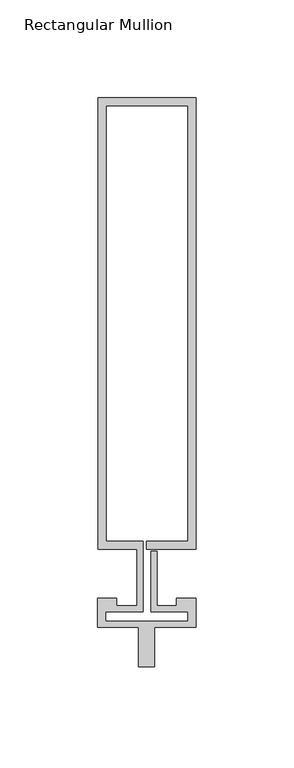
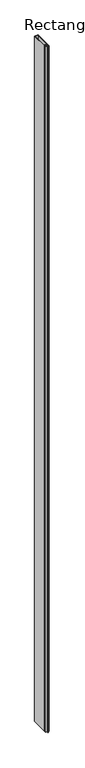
"""IFC4 building model written with IfcOpenShell, lengths in millimetres: member geometry, Rectangular Mullion : Reynaers_CW-50_Mullion-Transom_Vertical_230.5mm_Facecap-06A."""

import ifcopenshell
import ifcopenshell.guid

model = None  # the IFC model being written
_history = None  # IfcOwnerHistory: only IFC2X3 demands one
_inside = {}  # id of a spatial element -> (the spatial element, [elements in it])
_under = {}  # id of a project, library or spatial element -> (it, [spatial elements below it])
_declared = {}  # id of a project -> (the project, [libraries it declares])
_typed = {}  # id of a type object -> (the type object, [elements of that type])
_made_of = {}  # id of a material, layer set ... -> (it, [elements and type objects made of it])


def new_model(schema):
    """Start an empty IFC model of exactly this schema.

    Asked for "IFC4X3", IfcOpenShell would pick the latest addendum, in which some entities
    have other attributes; the version numbers below select the first issue.
    IFC2X3 requires an IfcOwnerHistory on every rooted entity: one is made here for all.
    """
    global model, _history
    if schema == "IFC4X3":
        model = ifcopenshell.file(schema_version=(4, 3, 0, 0))
    else:
        model = ifcopenshell.file(schema=schema)
    _inside.clear()
    _under.clear()
    _declared.clear()
    _typed.clear()
    _made_of.clear()
    _history = None
    if model.schema == "IFC2X3":
        org = make("IfcOrganization", Name="unknown")
        user = make(
            "IfcPersonAndOrganization",
            ThePerson=make("IfcPerson", FamilyName="unknown"),
            TheOrganization=org,
        )
        app = make(
            "IfcApplication",
            ApplicationDeveloper=org,
            Version="unknown",
            ApplicationFullName="unknown",
            ApplicationIdentifier="unknown",
        )
        _history = make(
            "IfcOwnerHistory",
            OwningUser=user,
            OwningApplication=app,
            ChangeAction="ADDED",
            CreationDate=0,
        )
    return model


def make(cls, **values):
    """One entity of the class cls with the attributes given. An attribute that is None is left unset."""
    return model.create_entity(
        cls, **{name: value for name, value in values.items() if value is not None}
    )


def rooted(cls, **values):
    """An entity with a GlobalId (a new one), such as an element, a storey or a relation."""
    return make(cls, GlobalId=ifcopenshell.guid.new(), OwnerHistory=_history, **values)


def si_unit(unit_type, name, prefix=None):
    """IfcSIUnit, for example si_unit("LENGTHUNIT", "METRE", prefix="MILLI")."""
    return make("IfcSIUnit", UnitType=unit_type, Prefix=prefix, Name=name)


def assignment(units):
    """IfcUnitAssignment: the units of a project."""
    return None if units is None else make("IfcUnitAssignment", Units=units)


def point(xyz):
    """IfcCartesianPoint."""
    return None if xyz is None else make("IfcCartesianPoint", Coordinates=xyz)


def direction(xyz):
    """IfcDirection."""
    return None if xyz is None else make("IfcDirection", DirectionRatios=xyz)


def frame(location, z_axis=None, x_axis=None):
    """IfcAxis2Placement3D, a coordinate frame: its origin and axes. An axis left out is left unset."""
    return make(
        "IfcAxis2Placement3D",
        Location=point(location),
        Axis=direction(z_axis),
        RefDirection=direction(x_axis),
    )


def origin():
    """The frame at (0, 0, 0) with its axes left unset."""
    return frame((0.0, 0.0, 0.0))


def place(relative_to, where):
    """IfcLocalPlacement: puts the frame where relative to a parent placement (None: the world)."""
    return make(
        "IfcLocalPlacement", PlacementRelTo=relative_to, RelativePlacement=where
    )


def context(
    kind, dimensions, precision=None, world=None, true_north=None, identifier=None
):
    """IfcGeometricRepresentationContext, for example the 3D "Model" context."""
    return make(
        "IfcGeometricRepresentationContext",
        ContextIdentifier=identifier,
        ContextType=kind,
        CoordinateSpaceDimension=dimensions,
        Precision=precision,
        WorldCoordinateSystem=world,
        TrueNorth=true_north,
    )


def project(units=None, contexts=None):
    """IfcProject with its units and contexts."""
    return rooted(
        "IfcProject",
        Name="project",
        RepresentationContexts=contexts,
        UnitsInContext=assignment(units),
    )


def spatial(cls, under=None, at=None, **own):
    """A site, building, storey or space (cls), placed at a placement, below another one or the project."""
    s = rooted(cls, ObjectPlacement=at, **own)
    if under is not None:
        _under.setdefault(under.id(), (under, []))[1].append(s)
    return s


def polyline(points):
    """IfcPolyline through the points."""
    return make("IfcPolyline", Points=[point(p) for p in points])


def outline(outer, holes=None, kind="AREA"):
    """IfcArbitraryClosedProfileDef: a profile drawn as a closed curve; with holes, ...WithVoids."""
    if holes is None:
        return make("IfcArbitraryClosedProfileDef", ProfileType=kind, OuterCurve=outer)
    return make(
        "IfcArbitraryProfileDefWithVoids",
        ProfileType=kind,
        OuterCurve=outer,
        InnerCurves=holes,
    )


def extrude(swept, where, along, depth):
    """IfcExtrudedAreaSolid: the profile swept, set in the frame where, extruded along a direction by depth."""
    return make(
        "IfcExtrudedAreaSolid",
        SweptArea=swept,
        Position=where,
        ExtrudedDirection=direction(along),
        Depth=depth,
    )


def shape(context_of_items, identifier, shape_type, items):
    """IfcShapeRepresentation: the items that make up one representation, for example the "Body"."""
    return make(
        "IfcShapeRepresentation",
        ContextOfItems=context_of_items,
        RepresentationIdentifier=identifier,
        RepresentationType=shape_type,
        Items=items,
    )


def source(mapping_origin, context_of_items, identifier, shape_type, items):
    """IfcRepresentationMap: a shape defined once, which mapped items show again and again."""
    return make(
        "IfcRepresentationMap",
        MappingOrigin=mapping_origin,
        MappedRepresentation=shape(context_of_items, identifier, shape_type, items),
    )


def transform(
    local_origin,
    x_axis=None,
    y_axis=None,
    z_axis=None,
    scale=None,
    scale2=None,
    scale3=None,
    uniform=True,
):
    """IfcCartesianTransformationOperator3D, or its non-uniform kind. x_axis, y_axis, z_axis: its Axis1, 2, 3."""
    if uniform:
        return make(
            "IfcCartesianTransformationOperator3D",
            Axis1=direction(x_axis),
            Axis2=direction(y_axis),
            LocalOrigin=point(local_origin),
            Scale=scale,
            Axis3=direction(z_axis),
        )
    return make(
        "IfcCartesianTransformationOperator3DnonUniform",
        Axis1=direction(x_axis),
        Axis2=direction(y_axis),
        LocalOrigin=point(local_origin),
        Scale=scale,
        Axis3=direction(z_axis),
        Scale2=scale2,
        Scale3=scale3,
    )


def mapped(mapping_source, mapping_target):
    """IfcMappedItem: shows the shape of a source again, moved by a transform."""
    return make(
        "IfcMappedItem", MappingSource=mapping_source, MappingTarget=mapping_target
    )


def made_of(thing, what):
    """Note that an element or type object is made of a material, layer set ...; save() writes the relation."""
    if what is not None:
        _made_of.setdefault(what.id(), (what, []))[1].append(thing)
    return thing


def element(
    cls,
    number,
    at=None,
    inside=None,
    cuts=None,
    type_object=None,
    material=None,
    context=None,
    identifier="Body",
    shape_type=None,
    held_by="IfcProductDefinitionShape",
    body=None,
    shapes=None,
    **own,
):
    """One element of the class cls, such as IfcWall. Its Tag is "e" and its number.

    at: its placement. inside: the storey or other place that contains it. cuts: it is an
    opening in that element (IfcRelVoidsElement). A single representation is given by context,
    identifier, shape_type and body (its items); several are given by shapes. held_by: the class
    of the entity that holds the representations. save() writes the other relations.
    """
    e = rooted(cls, Tag="e%d" % number, ObjectPlacement=at, **own)
    if body is not None:
        shapes = [shape(context, identifier, shape_type, body)]
    if shapes is not None:
        e.Representation = make(held_by, Representations=shapes)
    if inside is not None:
        _inside.setdefault(inside.id(), (inside, []))[1].append(e)
    if cuts is not None:
        rooted(
            "IfcRelVoidsElement", RelatingBuildingElement=cuts, RelatedOpeningElement=e
        )
    if type_object is not None:
        _typed.setdefault(type_object.id(), (type_object, []))[1].append(e)
    return made_of(e, material)


def aggregate(whole, parts):
    """IfcRelAggregates: a whole, such as a stair, and the parts it consists of."""
    return rooted("IfcRelAggregates", RelatingObject=whole, RelatedObjects=parts)


def save(model, path):
    """Write the relations noted so far, then the file.

    IfcRelAggregates (storeys below a building ...), IfcRelContainedInSpatialStructure (elements
    in a storey), IfcRelDefinesByType, IfcRelAssociatesMaterial and IfcRelDeclares: one each for
    every whole, place, type object, material and project.
    """
    for whole, parts in _under.values():
        aggregate(whole, parts)
    for where, things in _inside.values():
        rooted(
            "IfcRelContainedInSpatialStructure",
            RelatedElements=things,
            RelatingStructure=where,
        )
    for kind, things in _typed.values():
        rooted("IfcRelDefinesByType", RelatedObjects=things, RelatingType=kind)
    for what, things in _made_of.values():
        rooted("IfcRelAssociatesMaterial", RelatedObjects=things, RelatingMaterial=what)
    for by, libraries in _declared.values():
        rooted("IfcRelDeclares", RelatingContext=by, RelatedDefinitions=libraries)
    model.write(path)


def rectangular_mullion_57f380c9(model_context):
    return source(origin(), model_context, "Body", "SweptSolid", [
        extrude(outline(polyline([(-24.8004059, 243.0), (25.1995941, 243.0), (25.1995941, 12.5), (0.0, 12.5), (0.0, 16.5), (21.1995941, 16.5), (21.1995941, 239.0), (-20.8004059, 239.0), (-20.8004059, 16.5), (-1.9004059, 16.5), (-1.9004059, -19.5), (-20.994845, -19.5), (-20.994845, -24.4191338), (21.1995941, -24.4191338), (21.1995941, -19.5), (2.2995941, -19.5), (2.2995941, 11.5), (5.2995941, 11.5), (5.2995941, -16.5), (15.2996495, -16.5), (15.2996495, -12.5), (25.1995941, -12.5), (25.1995941, -27.5), (4.004855, -27.5), (4.004855, -47.5), (-3.995145, -47.5), (-3.995145, -27.5), (-24.994845, -27.5), (-24.994845, -12.5), (-15.2996495, -12.5), (-15.2996495, -16.5), (-4.9004059, -16.5), (-4.9004059, 12.5), (-24.8004059, 12.5), (-24.8004059, 243.0)])), frame((0.0, 0.0, -10400.0), z_axis=(0.0, 0.0, 1.0), x_axis=(1.0, 0.0, 0.0)), (0.0, 0.0, 1.0), 10400.0),
    ])


if __name__ == "__main__":
    model = new_model("IFC4")
    model_context = context("Model", 3, world=origin())
    ifc_project = project(units=[si_unit("LENGTHUNIT", "METRE", prefix="MILLI")], contexts=[model_context])
    site = spatial("IfcSite", under=ifc_project)
    building = spatial("IfcBuilding", under=site)
    placement = place(None, origin())
    rectangular_mullion_shape = rectangular_mullion_57f380c9(model_context)
    element("IfcMember", 1, ObjectType="Rectangular Mullion : Reynaers_CW-50_Mullion-Transom_Vertical_230.5mm_Facecap-06A", at=placement, inside=building, context=model_context, shape_type="MappedRepresentation", body=[
        mapped(rectangular_mullion_shape, transform((0.0, 0.0, 0.0), x_axis=(1.0, 0.0, 0.0), y_axis=(0.0, 1.0, 0.0), z_axis=(0.0, 0.0, 1.0))),
    ])
    save(model, "model.ifc")
